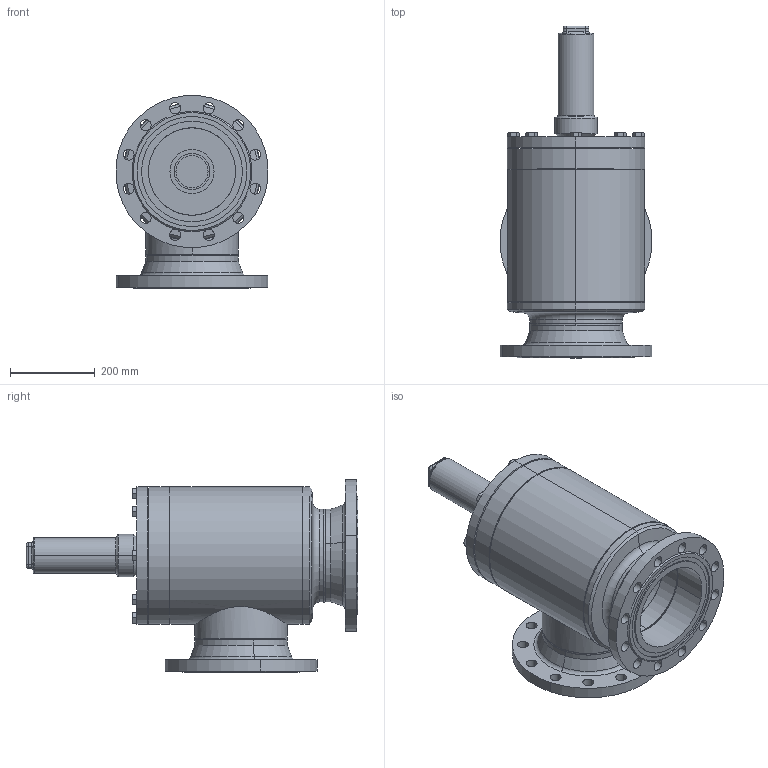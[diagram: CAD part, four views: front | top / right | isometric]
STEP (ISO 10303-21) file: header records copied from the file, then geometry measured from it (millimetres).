
FILE_DESCRIPTION (( 'STEP AP214' ), '1' );
FILE_NAME ('RVA29420C23-DN200_DIN-FL-N_PS25.STEP', '2006-04-28T06:16:30', ( 'Herr Grams' ), ( 'AWP GmbH' ), 'SwSTEP 2.0', 'SolidWorks 2002296', '' );
FILE_SCHEMA (( 'AUTOMOTIVE_DESIGN' ));
Length unit declared in the file: millimetre
Products named in the file (18): RVA29420C23-DN200_DIN-FL-N_PS25; RVA29300B23_Deck-Schr-DN200_Standard; Deckel-kpl29300B2-DN200_Standard; Buchse f Deckel29300-DN200_Standard; bead-deck263-200_Standard; Scheibe f Deckel16300-DN200_Standard; Sechskantschraube-DIN933_M16x 45; Gehäuse-kpl16420-DN200_DIN_PS25_Standard; Kopfstück16300-DN200_Standard; Boden16300-DN200_Standard; Gehäuse16300-DN200_Standard; Rohrstutzen-A16300-DN200_R1_Standard; Flansch-DIN2634-Nut_PS25_DIN-Flansch-DN200_PS25-Nut; bead-DN200-2_Standard; bead-DN200-1_Standard; bead-DN200-4_Standard; bead-DN200-3_Standard; Kappe16402_DN200-350_Standard
Assembly tree (25 placements, depth 4):
  RVA29420C23-DN200_DIN-FL-N_PS25
    RVA29300B23_Deck-Schr-DN200_Standard
      Sechskantschraube-DIN933_M16x 45  x8
      Deckel-kpl29300B2-DN200_Standard
        Scheibe f Deckel16300-DN200_Standard
        Buchse f Deckel29300-DN200_Standard
        bead-deck263-200_Standard
    Gehäuse-kpl16420-DN200_DIN_PS25_Standard
      Boden16300-DN200_Standard
      Rohrstutzen-A16300-DN200_R1_Standard
      bead-DN200-3_Standard
      Kopfstück16300-DN200_Standard
      bead-DN200-4_Standard
      Flansch-DIN2634-Nut_PS25_DIN-Flansch-DN200_PS25-Nut  x2
      Gehäuse16300-DN200_Standard
      bead-DN200-2_Standard
      bead-DN200-1_Standard
    Kappe16402_DN200-350_Standard
Bounding box: 358.63 x 784 x 455.31 mm (x, y, z)
Volume: 15517470.1 mm3; surface area: 2180225 mm2
Topology: 22 solids, 22 shells, 493 faces, 1130 edges, 684 vertices
Faces by surface type: cylinder 173, cone 148, plane 128, bspline 28, torus 16
Entity records: 21508 total; most frequent: CARTESIAN_POINT 14285, DIRECTION 1390, ORIENTED_EDGE 1252, EDGE_CURVE 626, AXIS2_PLACEMENT_3D 607, VERTEX_POINT 388, EDGE_LOOP 338, CIRCLE 334
